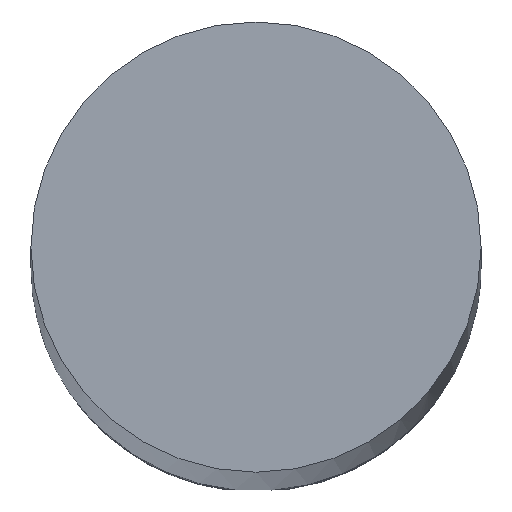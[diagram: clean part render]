
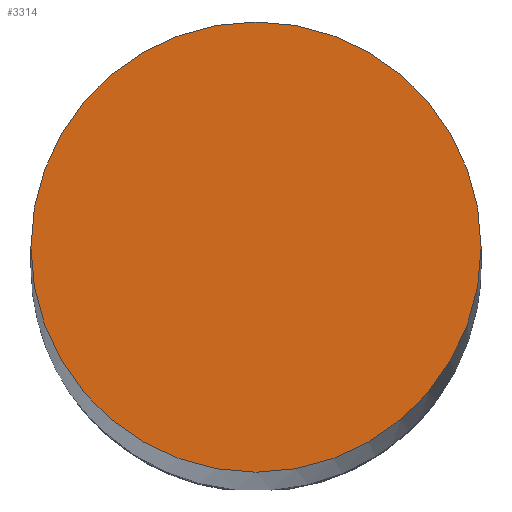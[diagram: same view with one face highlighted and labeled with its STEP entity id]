
A CAD part, top view. The second image highlights one B-rep face of the part: STEP entity #3314.
In plain terms, the highlighted planar face has unit normal (0, 0, 1).
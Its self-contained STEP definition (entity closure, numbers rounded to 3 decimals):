
#48 = AXIS2_PLACEMENT_3D ( 'NONE', #2579, #2592, #2594 ) ;
#85 = EDGE_CURVE ( 'NONE', #2807, #2805, #2438, .T. ) ;
#109 = EDGE_CURVE ( 'NONE', #2805, #2807, #488, .T. ) ;
#152 = AXIS2_PLACEMENT_3D ( 'NONE', #3049, #3800, #3015 ) ;
#184 = AXIS2_PLACEMENT_3D ( 'NONE', #3567, #3135, #3143 ) ;
#488 = CIRCLE ( 'NONE', #152, 5. ) ;
#1248 = CARTESIAN_POINT ( 'NONE',  ( 5., 0., 260. ) ) ;
#1371 = EDGE_LOOP ( 'NONE', ( #1911, #1908 ) ) ;
#1627 = CARTESIAN_POINT ( 'NONE',  ( -5., 0., 260. ) ) ;
#1908 = ORIENTED_EDGE ( 'NONE', *, *, #109, .T. ) ;
#1911 = ORIENTED_EDGE ( 'NONE', *, *, #85, .T. ) ;
#2438 = CIRCLE ( 'NONE', #184, 5. ) ;
#2579 = CARTESIAN_POINT ( 'NONE',  ( -15.125, 7.625, 260. ) ) ;
#2589 = PLANE ( 'NONE',  #48 ) ;
#2592 = DIRECTION ( 'NONE',  ( 0., 0., -1. ) ) ;
#2594 = DIRECTION ( 'NONE',  ( -1., 0., 0. ) ) ;
#2805 = VERTEX_POINT ( 'NONE', #1627 ) ;
#2807 = VERTEX_POINT ( 'NONE', #1248 ) ;
#3015 = DIRECTION ( 'NONE',  ( -1., 0., 0. ) ) ;
#3049 = CARTESIAN_POINT ( 'NONE',  ( 0., 0., 260. ) ) ;
#3135 = DIRECTION ( 'NONE',  ( 0., 0., 1. ) ) ;
#3143 = DIRECTION ( 'NONE',  ( -1., 0., 0. ) ) ;
#3314 = ADVANCED_FACE ( 'NONE', ( #3817 ), #2589, .F. ) ;
#3567 = CARTESIAN_POINT ( 'NONE',  ( 0., 0., 260. ) ) ;
#3800 = DIRECTION ( 'NONE',  ( 0., 0., 1. ) ) ;
#3817 = FACE_OUTER_BOUND ( 'NONE', #1371, .T. ) ;
